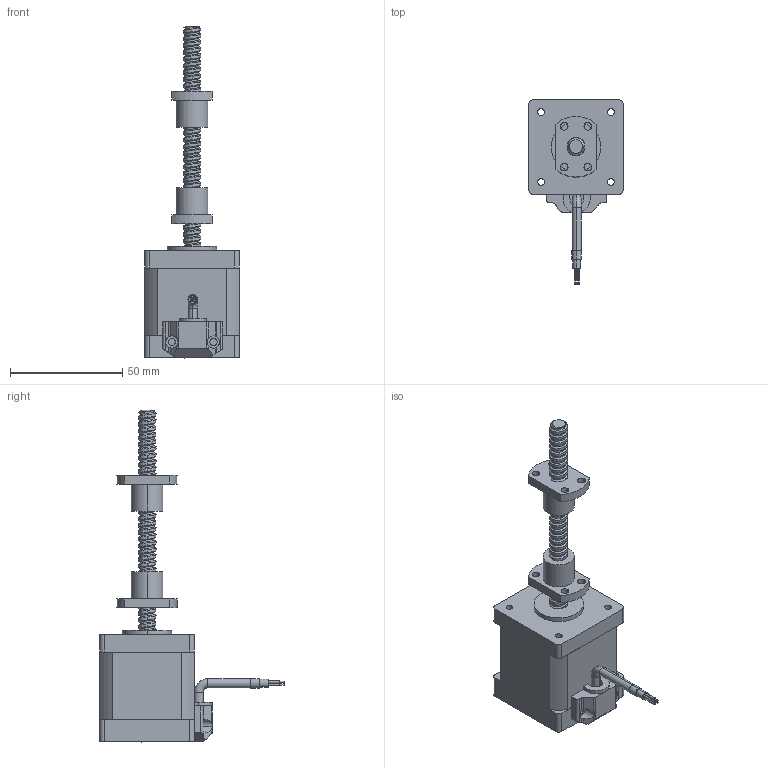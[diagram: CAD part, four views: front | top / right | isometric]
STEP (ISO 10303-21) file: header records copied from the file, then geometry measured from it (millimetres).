
FILE_DESCRIPTION (( 'STEP AP214' ), '1' );
FILE_NAME ('SPS42E248-BS0802-100LR.STEP', '2024-06-25T10:49:35', ( 'MM' ), ( 'Microsoft' ), 'SwSTEP 2.0', 'SolidWorks 2024', '' );
FILE_SCHEMA (( 'AUTOMOTIVE_DESIGN' ));
Length unit declared in the file: millimetre
Products named in the file (1): SPS42E248-BS0802-100LR
Bounding box: 42 x 82 x 147.6 mm (x, y, z)
Volume: 93710.3 mm3; surface area: 25979.8 mm2
Topology: 5 solids, 5 shells, 264 faces, 699 edges, 462 vertices
Faces by surface type: cylinder 181, plane 71, torus 6, bspline 4, cone 2
Entity records: 31943 total; most frequent: CARTESIAN_POINT 25407, ORIENTED_EDGE 1398, DIRECTION 1295, EDGE_CURVE 699, AXIS2_PLACEMENT_3D 497, VERTEX_POINT 462, EDGE_LOOP 331, LINE 301
